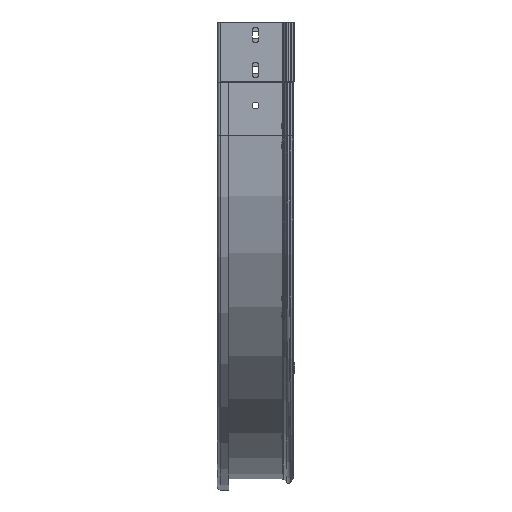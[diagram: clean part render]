
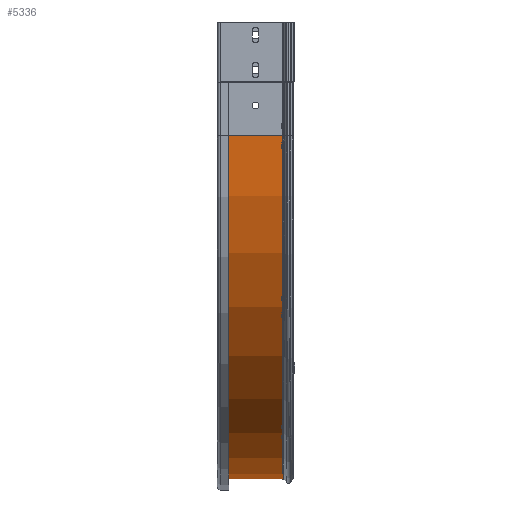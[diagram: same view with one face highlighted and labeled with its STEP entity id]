
A CAD part, left-side view. The second image highlights one B-rep face of the part: STEP entity #5336.
In plain terms, the highlighted cylindrical face has radius 451.5 mm (diameter 903 mm), a partial arc.
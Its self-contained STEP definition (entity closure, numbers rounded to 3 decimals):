
#76 = EDGE_CURVE ( 'NONE', #7383, #3919, #9851, .T. ) ;
#366 = CARTESIAN_POINT ( 'NONE',  ( 450., 14.067, -601.5 ) ) ;
#533 = VECTOR ( 'NONE', #2243, 1000. ) ;
#636 = CYLINDRICAL_SURFACE ( 'NONE', #11081, 451.5 ) ;
#827 = VERTEX_POINT ( 'NONE', #7366 ) ;
#900 = ORIENTED_EDGE ( 'NONE', *, *, #76, .T. ) ;
#1055 = DIRECTION ( 'NONE',  ( 0., 1., 0. ) ) ;
#1288 = EDGE_CURVE ( 'NONE', #7383, #10767, #3087, .T. ) ;
#2243 = DIRECTION ( 'NONE',  ( 0., 1., 0. ) ) ;
#2752 = CARTESIAN_POINT ( 'NONE',  ( 450., 96., -150. ) ) ;
#2782 = ORIENTED_EDGE ( 'NONE', *, *, #11140, .F. ) ;
#3035 = DIRECTION ( 'NONE',  ( 0., 1., 0. ) ) ;
#3087 = LINE ( 'NONE', #10731, #533 ) ;
#3919 = VERTEX_POINT ( 'NONE', #4247 ) ;
#4247 = CARTESIAN_POINT ( 'NONE',  ( -1.5, 14.067, -150. ) ) ;
#5336 = ADVANCED_FACE ( 'NONE', ( #8349 ), #636, .T. ) ;
#6458 = CARTESIAN_POINT ( 'NONE',  ( 450., 96., -601.5 ) ) ;
#6563 = CARTESIAN_POINT ( 'NONE',  ( -1.5, 14.067, -150. ) ) ;
#6604 = EDGE_CURVE ( 'NONE', #827, #3919, #9125, .T. ) ;
#6755 = DIRECTION ( 'NONE',  ( 0., 1., 0. ) ) ;
#6772 = AXIS2_PLACEMENT_3D ( 'NONE', #10728, #3035, #10789 ) ;
#7040 = ORIENTED_EDGE ( 'NONE', *, *, #1288, .F. ) ;
#7366 = CARTESIAN_POINT ( 'NONE',  ( -1.5, 96., -150. ) ) ;
#7383 = VERTEX_POINT ( 'NONE', #366 ) ;
#7540 = EDGE_LOOP ( 'NONE', ( #2782, #7040, #900, #8695 ) ) ;
#7965 = DIRECTION ( 'NONE',  ( 0., 0., 1. ) ) ;
#8069 = CIRCLE ( 'NONE', #8806, 451.5 ) ;
#8349 = FACE_OUTER_BOUND ( 'NONE', #7540, .T. ) ;
#8695 = ORIENTED_EDGE ( 'NONE', *, *, #6604, .F. ) ;
#8806 = AXIS2_PLACEMENT_3D ( 'NONE', #2752, #1055, #7965 ) ;
#9125 = LINE ( 'NONE', #6563, #10904 ) ;
#9186 = DIRECTION ( 'NONE',  ( 0., -1., 0. ) ) ;
#9851 = CIRCLE ( 'NONE', #6772, 451.5 ) ;
#10154 = CARTESIAN_POINT ( 'NONE',  ( 450., 0., -150. ) ) ;
#10728 = CARTESIAN_POINT ( 'NONE',  ( 450., 14.067, -150. ) ) ;
#10731 = CARTESIAN_POINT ( 'NONE',  ( 450., 14.067, -601.5 ) ) ;
#10767 = VERTEX_POINT ( 'NONE', #6458 ) ;
#10789 = DIRECTION ( 'NONE',  ( 0., 0., 1. ) ) ;
#10904 = VECTOR ( 'NONE', #9186, 1000. ) ;
#11043 = DIRECTION ( 'NONE',  ( 0., 0., 1. ) ) ;
#11081 = AXIS2_PLACEMENT_3D ( 'NONE', #10154, #6755, #11043 ) ;
#11140 = EDGE_CURVE ( 'NONE', #10767, #827, #8069, .T. ) ;
